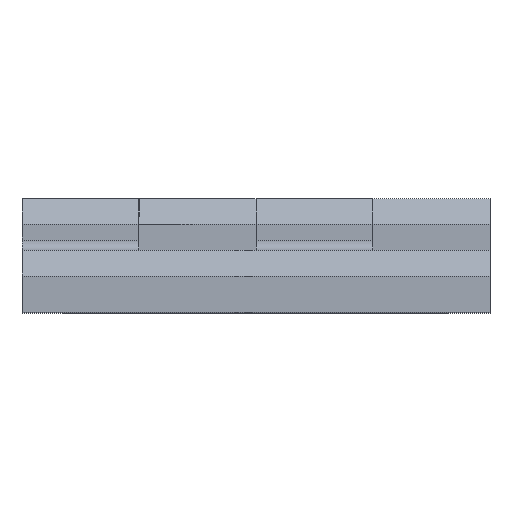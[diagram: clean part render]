
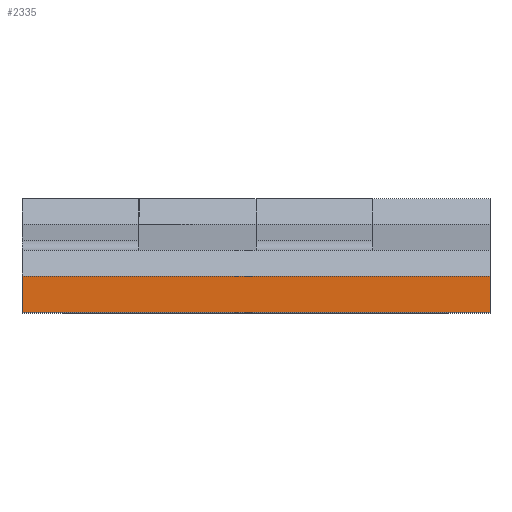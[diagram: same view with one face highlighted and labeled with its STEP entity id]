
A CAD part, top view. The second image highlights one B-rep face of the part: STEP entity #2335.
In plain terms, the highlighted planar face has unit normal (0, 0, 1) as drawn and (0, 0, -1) by its records, which use the part's own axes.
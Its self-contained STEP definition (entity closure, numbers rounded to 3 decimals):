
#28 = EDGE_CURVE ( 'NONE', #2469, #2224, #1466, .T. ) ;
#31 = VECTOR ( 'NONE', #2251, 1000. ) ;
#32 = EDGE_CURVE ( 'NONE', #2053, #355, #1511, .T. ) ;
#207 = CARTESIAN_POINT ( 'NONE',  ( 22.5, 3.5, -27. ) ) ;
#262 = LINE ( 'NONE', #2200, #1553 ) ;
#271 = DIRECTION ( 'NONE',  ( -1., 0., 0. ) ) ;
#290 = LINE ( 'NONE', #2057, #31 ) ;
#341 = ORIENTED_EDGE ( 'NONE', *, *, #1588, .T. ) ;
#355 = VERTEX_POINT ( 'NONE', #798 ) ;
#456 = CARTESIAN_POINT ( 'NONE',  ( -22.5, 0., -27. ) ) ;
#679 = PLANE ( 'NONE',  #2161 ) ;
#729 = EDGE_LOOP ( 'NONE', ( #341, #1577, #1402, #1731 ) ) ;
#798 = CARTESIAN_POINT ( 'NONE',  ( -22.5, 3.5, -27. ) ) ;
#917 = CARTESIAN_POINT ( 'NONE',  ( 22.5, 3.5, -27. ) ) ;
#1107 = DIRECTION ( 'NONE',  ( -1., 0., 0. ) ) ;
#1214 = DIRECTION ( 'NONE',  ( 0., 0., 1. ) ) ;
#1402 = ORIENTED_EDGE ( 'NONE', *, *, #1749, .F. ) ;
#1466 = LINE ( 'NONE', #2228, #1578 ) ;
#1511 = LINE ( 'NONE', #917, #2108 ) ;
#1553 = VECTOR ( 'NONE', #2007, 1000. ) ;
#1577 = ORIENTED_EDGE ( 'NONE', *, *, #32, .F. ) ;
#1578 = VECTOR ( 'NONE', #1107, 1000. ) ;
#1588 = EDGE_CURVE ( 'NONE', #2224, #355, #262, .T. ) ;
#1731 = ORIENTED_EDGE ( 'NONE', *, *, #28, .T. ) ;
#1749 = EDGE_CURVE ( 'NONE', #2469, #2053, #290, .T. ) ;
#1798 = FACE_OUTER_BOUND ( 'NONE', #729, .T. ) ;
#2007 = DIRECTION ( 'NONE',  ( 0., 1., 0. ) ) ;
#2008 = DIRECTION ( 'NONE',  ( 1., 0., 0. ) ) ;
#2053 = VERTEX_POINT ( 'NONE', #207 ) ;
#2057 = CARTESIAN_POINT ( 'NONE',  ( 22.5, 0., -27. ) ) ;
#2108 = VECTOR ( 'NONE', #271, 1000. ) ;
#2161 = AXIS2_PLACEMENT_3D ( 'NONE', #2415, #1214, #2008 ) ;
#2200 = CARTESIAN_POINT ( 'NONE',  ( -22.5, 0., -27. ) ) ;
#2224 = VERTEX_POINT ( 'NONE', #456 ) ;
#2228 = CARTESIAN_POINT ( 'NONE',  ( 22.5, 0., -27. ) ) ;
#2231 = CARTESIAN_POINT ( 'NONE',  ( 22.5, 0., -27. ) ) ;
#2251 = DIRECTION ( 'NONE',  ( 0., 1., 0. ) ) ;
#2335 = ADVANCED_FACE ( 'NONE', ( #1798 ), #679, .F. ) ;
#2415 = CARTESIAN_POINT ( 'NONE',  ( 22.5, 0., -27. ) ) ;
#2469 = VERTEX_POINT ( 'NONE', #2231 ) ;
